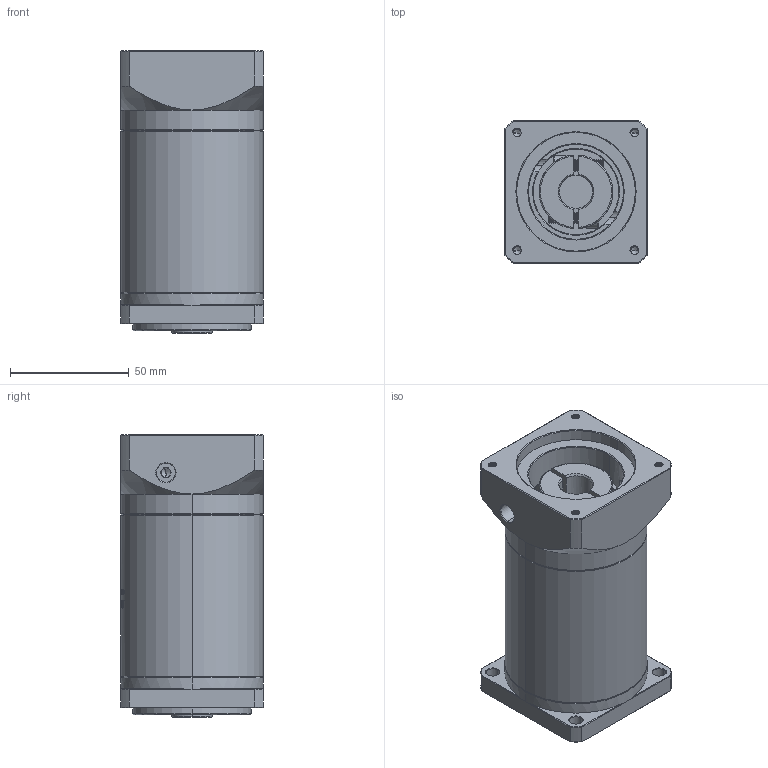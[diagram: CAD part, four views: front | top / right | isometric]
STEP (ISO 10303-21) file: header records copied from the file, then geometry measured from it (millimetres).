
FILE_DESCRIPTION (( 'STEP AP214' ), '1' );
FILE_NAME ('ZF060-K10-L3-P2-14-50-70-M4.step', '2023-08-16T04:32:29', ( '' ), ( '' ), 'SwSTEP 2.0', 'SolidWorks 2016', '' );
FILE_SCHEMA (( 'AUTOMOTIVE_DESIGN' ));
Length unit declared in the file: millimetre
Products named in the file (1): ZF060-K10-L3-P2-14-50-70-M4
Bounding box: 60 x 60 x 119 mm (x, y, z)
Volume: 313025.3 mm3; surface area: 49254.4 mm2
Topology: 6 solids, 6 shells, 1669 faces, 4524 edges, 2937 vertices
Faces by surface type: plane 787, bspline 347, cylinder 289, cone 228, torus 18
Entity records: 89905 total; most frequent: CARTESIAN_POINT 33383, ORIENTED_EDGE 9024, DIRECTION 6498, EDGE_CURVE 4512, VERTEX_POINT 2937, LINE 2312, VECTOR 2312, AXIS2_PLACEMENT_3D 2093
